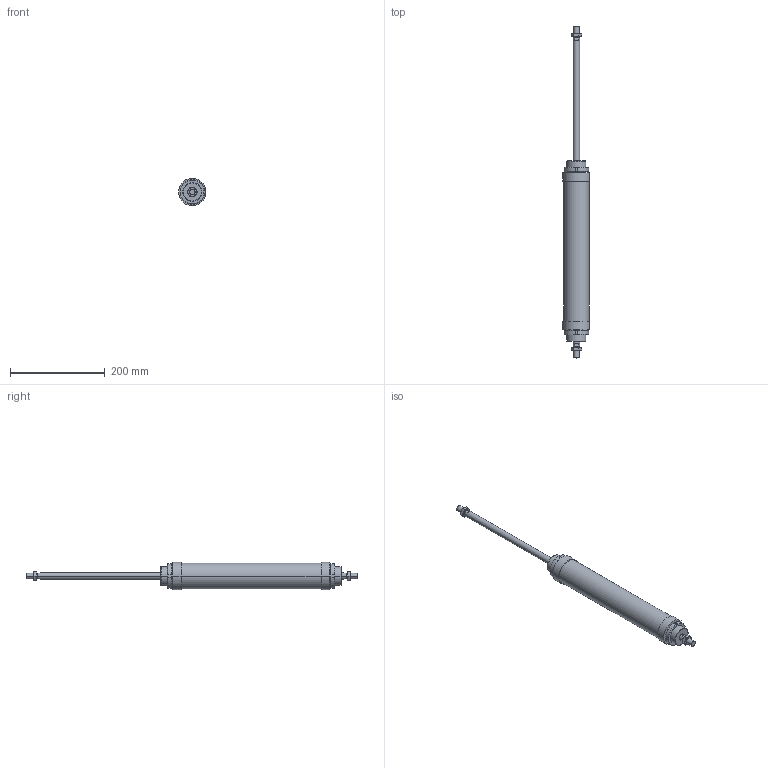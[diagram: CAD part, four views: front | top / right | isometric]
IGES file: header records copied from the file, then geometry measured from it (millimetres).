
Global section: file name: No Iges File Name specified; native system: AutoDesk Inventor R6.0; preprocessor: AutoDesk Inventor Iges Exporter R6.0; author: No Author specified; organization: No Organization specified; date: 20030403.073036; units: millimetre
Bounding box: 56.6 x 702 x 57.85 mm (x, y, z)
Volume: 898661 mm3; surface area: 127980.3 mm2
Topology: 6 solids, 6 shells, 182 faces, 424 edges, 264 vertices
Faces by surface type: plane 66, cone 52, bspline 30, cylinder 28, revolution 6
